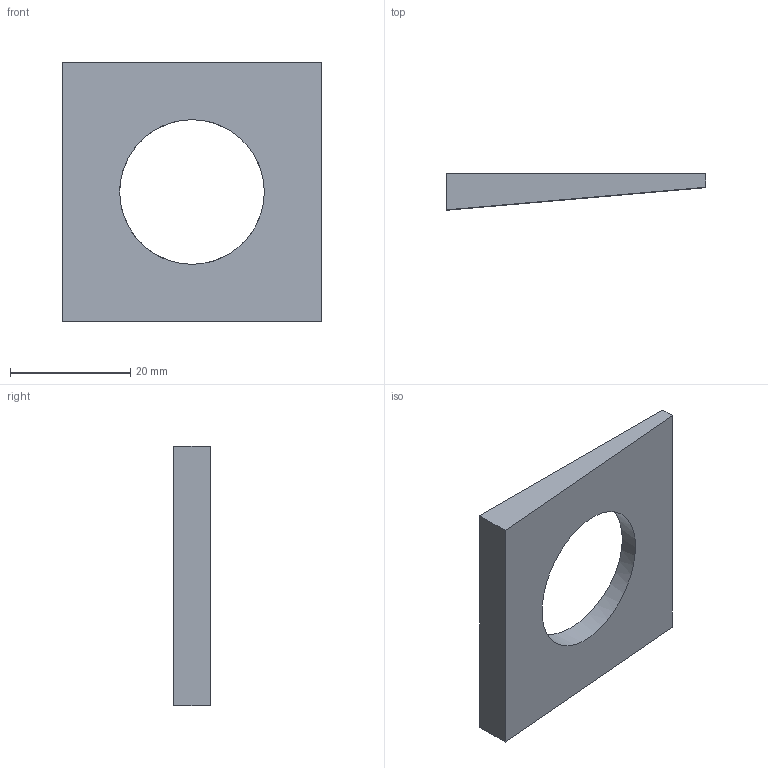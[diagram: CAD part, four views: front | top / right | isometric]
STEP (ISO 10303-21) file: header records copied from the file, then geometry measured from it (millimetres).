
FILE_DESCRIPTION(/* description */ (''),/* implementation_level */ '2;1');
FILE_NAME(/* name */ 'C:\Users\D\Documents\Inventor\HP\JIS\締結部品\座金\テーパ座金5°\tw5-m22.stp',/* time_stamp */ '2024-09-27T15:45:17+09:00',/* author */ ('D'),/* organization */ (''),/* preprocessor_version */ 'ST-DEVELOPER v18',/* originating_system */ 'Autodesk Inventor 2020',/* authorisation */ '');
FILE_SCHEMA (('AUTOMOTIVE_DESIGN { 1 0 10303 214 3 1 1 }'));
Length unit declared in the file: millimetre
Products named in the file (1): tw5-m5
Bounding box: 43 x 6 x 43 mm (x, y, z)
Volume: 5762.6 mm3; surface area: 3819.3 mm2
Topology: 1 solids, 1 shells, 7 faces, 16 edges, 11 vertices
Faces by surface type: plane 6, cylinder 1
Full cylindrical faces by diameter (mm): 24 x1
Entity records: 246 total; most frequent: DIRECTION 35, CARTESIAN_POINT 35, ORIENTED_EDGE 32, EDGE_CURVE 16, LINE 13, VECTOR 13, VERTEX_POINT 11, AXIS2_PLACEMENT_3D 11
